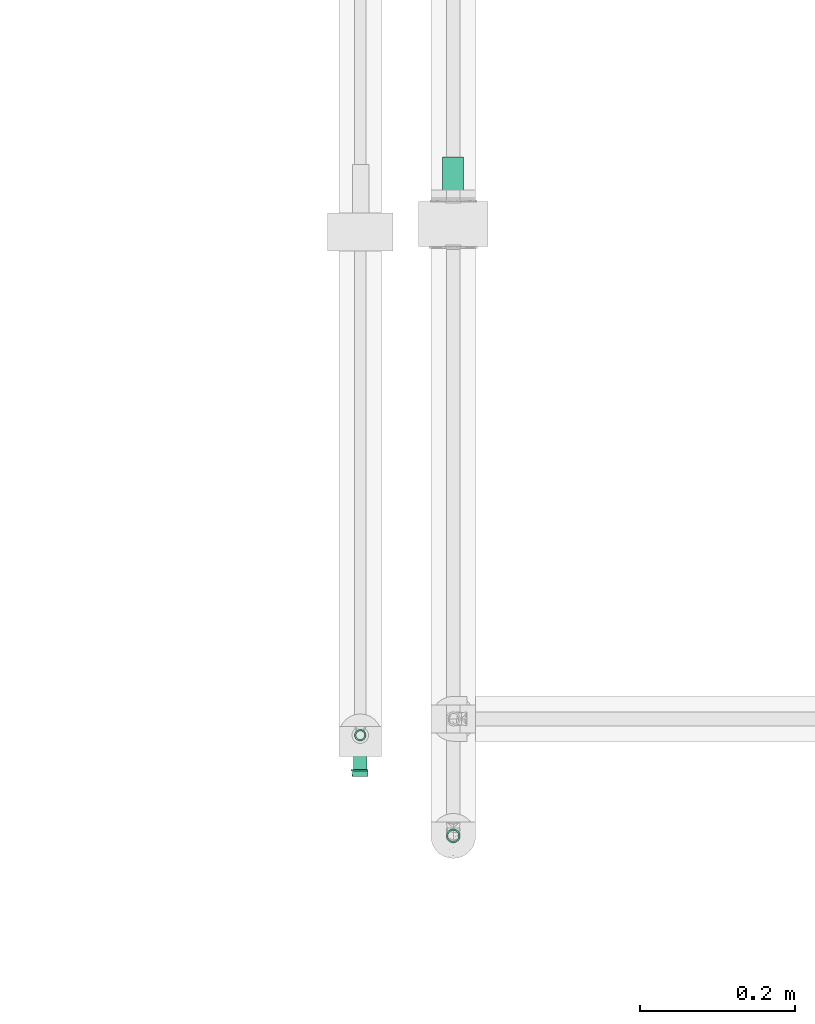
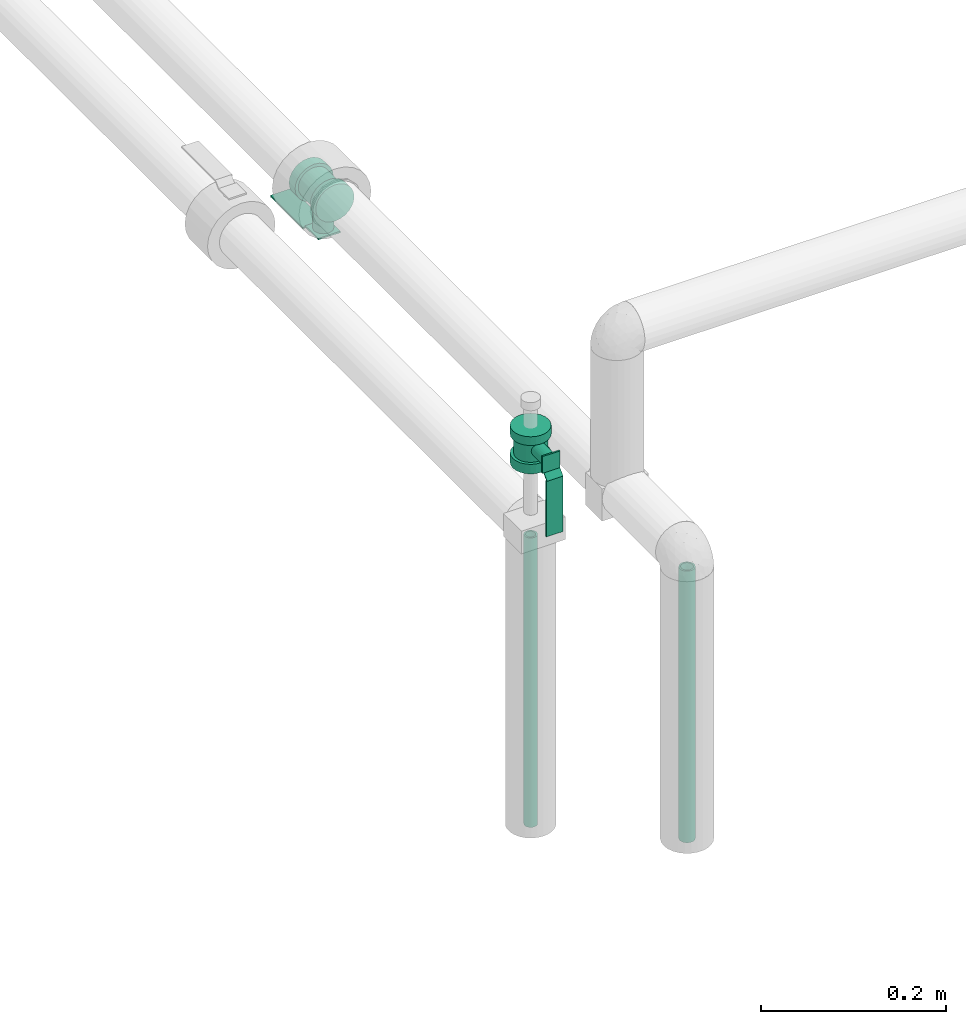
# One storey, part 27 of 78: 2 flow controllers, 2 flow segments.
"""IFC2X3 building model written with IfcOpenShell, lengths in millimetres."""

from ifc_helpers import new_model, entity, si_unit, converted_unit, derived_unit, direction, frame, origin_with_axes, origin_2d_with_axis, place, context, subcontext, project, spatial, hollow_circle, extrude, open_shell, surface_model, source, transform, mapped, type_object, element, save


model = new_model("IFC2X3")

# Units and contexts
model_context = context("Model", 3, precision=0.01, world=frame((0.0, 4.29681676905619e-09, 0.0)), true_north=direction((4.01073788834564e-13, 1.0)))
plan_context = context("Plan", 3, precision=0.01, world=frame((0.0, 4.29681676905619e-09, 0.0)), true_north=direction((4.01073788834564e-13, 1.0)))
body_context = subcontext(model_context, "Body", "Model", "MODEL_VIEW")
ifc_project = project(units=[converted_unit("PLANEANGLEUNIT", "DEGREE", entity("IfcPositiveLengthMeasure", 0.0174532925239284), si_unit("PLANEANGLEUNIT", "RADIAN"), dimensions=[0, 0, 0, 0, 0, 0, 0]), si_unit("AREAUNIT", "SQUARE_METRE"), si_unit("LENGTHUNIT", "METRE", prefix="MILLI"), si_unit("MASSUNIT", "GRAM", prefix="KILO"), si_unit("POWERUNIT", "WATT"), si_unit("PRESSUREUNIT", "PASCAL"), si_unit("FORCEUNIT", "NEWTON", prefix="KILO"), si_unit("ELECTRICVOLTAGEUNIT", "VOLT"), si_unit("ELECTRICCURRENTUNIT", "AMPERE"), si_unit("THERMODYNAMICTEMPERATUREUNIT", "DEGREE_CELSIUS"), si_unit("TIMEUNIT", "SECOND"), si_unit("VOLUMEUNIT", "CUBIC_METRE"), derived_unit("LINEARVELOCITYUNIT", [(si_unit("LENGTHUNIT", "METRE"), 1), (si_unit("TIMEUNIT", "SECOND"), -1)]), derived_unit("VOLUMETRICFLOWRATEUNIT", [(si_unit("VOLUMEUNIT", "CUBIC_METRE"), 1), (si_unit("TIMEUNIT", "SECOND"), -1)]), derived_unit("THERMALTRANSMITTANCEUNIT", [(si_unit("POWERUNIT", "WATT"), 1), (si_unit("THERMODYNAMICTEMPERATUREUNIT", "KELVIN"), -1), (si_unit("AREAUNIT", "SQUARE_METRE"), -1)]), derived_unit("SOUNDPRESSUREUNIT", [(si_unit("PRESSUREUNIT", "PASCAL"), 1)])], contexts=[model_context, plan_context])

# Site, building, storey
site_placement = place(None, frame((0.0, -4.29681676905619e-09, 0.0), z_axis=(0.0, 0.0, 1.0), x_axis=(1.0, 0.0, 0.0)))
site = spatial("IfcSite", under=ifc_project, at=site_placement, Name="ENGM", CompositionType="ELEMENT")
building_placement = place(site_placement, frame((0.0, 4.29681676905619e-09, 0.0), z_axis=(0.0, 0.0, 1.0), x_axis=(1.0, 0.0, 0.0)))
building = spatial("IfcBuilding", under=site, at=building_placement, Name="TH", CompositionType="ELEMENT")
storey_placement = place(building_placement, frame((0.0, 0.0, 205200.0), z_axis=(0.0, 0.0, 1.0), x_axis=(1.0, 0.0, 0.0)))
storey = spatial("IfcBuildingStorey", under=building, at=storey_placement, Name="Nivå D + 1,2 m", CompositionType="ELEMENT", Elevation=205200.0)

# Flow controllers
valve_type_1 = type_object("IfcValveType", Name="AT3600-20", PredefinedType="NOTDEFINED")
shared_shape_1 = source(origin_with_axes(), body_context, "Body", "SurfaceModel", [
    surface_model("IfcShellBasedSurfaceModel", [(-18.552, 13.0, 50.0), (-18.552, -15.0, 50.0), (9.448, -15.0, 50.0), (9.448, 13.0, 50.0), (9.448, 13.0, 48.0), (9.448, -15.0, 48.0), (-18.552, -15.0, 48.0), (-18.552, 13.0, 48.0), (15.8, -19.27022, -5.16344), (-17.0, -19.95, 0.0), (-17.0, -19.27022, -5.16344), (15.8, -17.27721, -9.975), (-17.0, -17.27721, -9.975), (15.8, -9.975, -17.27721), (-17.0, -9.975, -17.27721), (-17.0, -5.16344, -19.27022), (15.8, -5.16344, -19.27022), (-17.0, 0.0, -19.95), (15.8, -19.95, 0.0), (-17.0, -14.10678, -14.10678), (15.8, -14.10678, -14.10678), (15.8, 0.0, -19.95), (15.8, 5.16344, -19.27022), (-17.0, 5.16344, -19.27022), (-17.0, 9.975, -17.27721), (-17.0, 14.10678, -14.10678), (15.8, 9.975, -17.27721), (15.8, 17.27721, -9.975), (-17.0, 17.27721, -9.975), (-17.0, 19.27022, -5.16344), (15.8, 14.10678, -14.10678), (15.8, 19.27022, -5.16344), (-17.0, 19.95, 0.0), (15.8, 19.95, 0.0), (-17.0, 19.27022, 5.16344), (15.8, 19.27022, 5.16344), (-17.0, 17.27721, 9.975), (15.8, 17.27721, 9.975), (-17.0, 14.10678, 14.10678), (15.8, 14.10678, 14.10678), (-17.0, 9.975, 17.27721), (15.8, 9.975, 17.27721), (-17.0, 5.16344, 19.27022), (15.8, 5.16344, 19.27022), (15.8, 0.0, 19.95), (-17.0, 0.0, 19.95), (15.8, -5.16344, 19.27022), (-17.0, -5.16344, 19.27022), (-17.0, -9.975, 17.27721), (-17.0, -14.10678, 14.10678), (15.8, -9.975, 17.27721), (15.8, -17.27721, 9.975), (-17.0, -17.27721, 9.975), (-17.0, -19.27022, 5.16344), (15.8, -14.10678, 14.10678), (15.8, -19.27022, 5.16344), (15.8, -11.97, 20.73265), (15.8, 0.0, 23.94), (15.8, 6.19613, 23.12426), (15.8, 11.97, 20.73265), (15.8, -20.73265, 11.97), (15.8, 20.73265, 11.97), (15.8, 16.92814, 16.92814), (15.8, 23.12426, 6.19613), (15.8, -16.92814, 16.92814), (15.8, -6.19613, 23.12426), (15.8, -23.94, 0.0), (15.8, -23.12426, 6.19613), (15.8, 23.94, 0.0), (15.8, -20.73265, -11.97), (15.8, 23.12426, -6.19613), (15.8, 16.92814, -16.92814), (15.8, 20.73265, -11.97), (15.8, 11.97, -20.73265), (15.8, 6.19613, -23.12426), (15.8, -11.97, -20.73265), (15.8, -16.92814, -16.92814), (15.8, -23.12426, -6.19613), (15.8, 0.0, -23.94), (15.8, -6.19613, -23.12426), (29.0, 6.19613, -23.12426), (29.0, -11.97, -20.73265), (29.0, 0.0, -23.94), (29.0, 16.92814, -16.92814), (29.0, 11.97, -20.73265), (29.0, 20.73265, -11.97), (29.0, 23.12426, -6.19613), (29.0, -20.73265, -11.97), (29.0, -16.92814, -16.92814), (29.0, -6.19613, -23.12426), (29.0, -23.94, 0.0), (29.0, -23.12426, -6.19613), (29.0, 23.94, 0.0), (29.0, 23.12426, 6.19613), (29.0, 20.73265, 11.97), (29.0, 11.97, 20.73265), (29.0, -20.73265, 11.97), (29.0, 16.92814, 16.92814), (29.0, 6.19613, 23.12426), (29.0, -11.97, 20.73265), (29.0, -16.92814, 16.92814), (29.0, -23.12426, 6.19613), (29.0, 0.0, 23.94), (29.0, -6.19613, 23.12426), (-17.0, 11.97, -20.73265), (-17.0, -6.19613, 23.12426), (-17.0, 6.19613, -23.12426), (-17.0, 16.92814, -16.92814), (-17.0, 6.19613, 23.12426), (-17.0, 20.73265, 11.97), (-17.0, 20.73265, -11.97), (-17.0, 23.12426, -6.19613), (-17.0, 0.0, -23.94), (-17.0, -6.19613, -23.12426), (-17.0, -11.97, -20.73265), (-17.0, -20.73265, -11.97), (-17.0, -20.73265, 11.97), (-17.0, -23.12426, -6.19613), (-17.0, -16.92814, 16.92814), (-17.0, -16.92814, -16.92814), (-17.0, 23.94, 0.0), (-17.0, 23.12426, 6.19613), (-17.0, 16.92814, 16.92814), (-17.0, 11.97, 20.73265), (-17.0, 0.0, 23.94), (-17.0, -23.12426, 6.19613), (-17.0, -23.94, 0.0), (-17.0, -11.97, 20.73265), (-29.0, 6.19613, 23.12426), (-29.0, -6.19613, -23.12426), (-29.0, 0.0, 23.94), (-29.0, 16.92814, 16.92814), (-29.0, 16.92814, -16.92814), (-29.0, 11.97, 20.73265), (-29.0, 20.73265, -11.97), (-29.0, 20.73265, 11.97), (-29.0, 23.12426, 6.19613), (-29.0, 11.97, -20.73265), (-29.0, -16.92814, 16.92814), (-29.0, -11.97, 20.73265), (-29.0, -16.92814, -16.92814), (-29.0, -6.19613, 23.12426), (-29.0, -20.73265, 11.97), (-29.0, -23.12426, 6.19613), (-29.0, -20.73265, -11.97), (-29.0, -11.97, -20.73265), (-29.0, 23.94, 0.0), (-29.0, 23.12426, -6.19613), (-29.0, 6.19613, -23.12426), (-29.0, 0.0, -23.94), (-29.0, -23.12426, -6.19613), (-29.0, -23.94, 0.0), (-3.552, -11.48, 48.0), (-0.58076, -11.08883, 48.0), (2.188, -9.94197, 48.0), (-9.292, -9.94197, 48.0), (-14.64083, -2.97124, 48.0), (6.38997, -5.74, 48.0), (4.56559, -8.11759, 48.0), (-11.66959, 8.11759, 48.0), (-11.66959, -8.11759, 48.0), (-6.52324, -11.08883, 48.0), (-13.49397, -5.74, 48.0), (-14.64083, 2.97124, 48.0), (-15.032, 0.0, 48.0), (7.53683, -2.97124, 48.0), (7.53683, 2.97124, 48.0), (4.56559, 8.11759, 48.0), (6.38997, 5.74, 48.0), (2.188, 9.94197, 48.0), (-0.58076, 11.08883, 48.0), (-13.49397, 5.74, 48.0), (-9.292, 9.94197, 48.0), (-3.552, 11.48, 48.0), (-6.52324, 11.08883, 48.0), (7.928, 0.0, 48.0), (-0.58076, 11.08883, 0.0), (2.188, 9.94197, 0.0), (4.56559, 8.11759, 0.0), (7.53683, 2.97124, 0.0), (7.928, 0.0, 0.0), (6.38997, 5.74, 0.0), (-11.66959, 8.11759, 0.0), (-3.552, 11.48, 0.0), (-9.292, 9.94197, 0.0), (-6.52324, 11.08883, 0.0), (-14.64083, 2.97124, 0.0), (-13.49397, 5.74, 0.0), (7.53683, -2.97124, 0.0), (6.38997, -5.74, 0.0), (-15.032, 0.0, 0.0), (2.188, -9.94197, 0.0), (4.56559, -8.11759, 0.0), (-0.58076, -11.08883, 0.0), (-3.552, -11.48, 0.0), (-14.64083, -2.97124, 0.0), (-11.66959, -8.11759, 0.0), (-13.49397, -5.74, 0.0), (-9.292, -9.94197, 0.0), (-6.52324, -11.08883, 0.0), (16.448, -13.0, 55.0), (16.448, -13.0, 57.0), (9.448, -13.0, 50.0), (9.448, -13.0, 48.0), (16.448, 13.0, 55.0), (16.448, 13.0, 57.0), (86.448, -14.0, 57.0), (16.448, -14.0, 57.0), (16.448, -14.0, 55.0), (86.448, -14.0, 55.0), (86.448, 13.0, 55.0), (86.448, 13.0, 57.0)], [open_shell([[[0, 1, 2]], [[2, 3, 0]], [[4, 5, 6]], [[6, 7, 4]], [[2, 1, 6]], [[6, 5, 2]], [[3, 2, 5]], [[5, 4, 3]], [[0, 3, 4]], [[4, 7, 0]], [[1, 0, 7]], [[7, 6, 1]], [[8, 9, 10]], [[11, 10, 12]], [[13, 14, 15]], [[16, 15, 17]], [[10, 11, 8]], [[8, 18, 9]], [[19, 20, 11]], [[20, 19, 13]], [[13, 19, 14]], [[15, 16, 13]], [[19, 11, 12]], [[17, 21, 16]], [[22, 23, 24]], [[25, 26, 24]], [[27, 28, 29]], [[25, 28, 30]], [[31, 29, 32]], [[23, 22, 21]], [[24, 26, 22]], [[25, 30, 26]], [[28, 27, 30]], [[31, 27, 29]], [[32, 33, 31]], [[23, 21, 17]], [[34, 35, 32]], [[36, 37, 34]], [[36, 38, 39]], [[38, 40, 41]], [[34, 37, 35]], [[35, 33, 32]], [[42, 43, 41]], [[44, 43, 42]], [[39, 38, 41]], [[39, 37, 36]], [[40, 42, 41]], [[42, 45, 44]], [[46, 47, 48]], [[49, 50, 48]], [[51, 52, 53]], [[49, 52, 54]], [[55, 53, 9]], [[47, 46, 44]], [[48, 50, 46]], [[49, 54, 50]], [[52, 51, 54]], [[55, 51, 53]], [[9, 18, 55]], [[47, 44, 45]], [[56, 57, 58]], [[59, 56, 58]], [[60, 59, 61]], [[61, 59, 62]], [[60, 61, 63]], [[56, 60, 64]], [[56, 65, 57]], [[60, 66, 67]], [[60, 56, 59]], [[66, 60, 63]], [[63, 68, 66]], [[69, 66, 70]], [[71, 70, 72]], [[71, 73, 74]], [[71, 74, 70]], [[69, 70, 74]], [[69, 75, 76]], [[77, 66, 69]], [[75, 78, 79]], [[75, 69, 74]], [[78, 75, 74]], [[66, 68, 70]], [[80, 81, 82]], [[83, 80, 84]], [[83, 85, 86]], [[81, 80, 83]], [[81, 83, 86]], [[81, 87, 88]], [[81, 89, 82]], [[87, 90, 91]], [[92, 87, 81]], [[92, 90, 87]], [[92, 81, 86]], [[92, 93, 94]], [[92, 94, 95]], [[92, 95, 96]], [[95, 94, 97]], [[96, 95, 98]], [[96, 99, 100]], [[101, 90, 96]], [[99, 102, 103]], [[99, 96, 98]], [[102, 99, 98]], [[96, 90, 92]], [[63, 93, 68]], [[61, 94, 63]], [[95, 62, 59]], [[61, 62, 97]], [[98, 59, 58]], [[63, 94, 93]], [[93, 92, 68]], [[98, 95, 59]], [[97, 62, 95]], [[97, 94, 61]], [[102, 98, 58]], [[58, 57, 102]], [[65, 103, 57]], [[56, 99, 65]], [[96, 64, 60]], [[56, 64, 100]], [[101, 60, 67]], [[56, 100, 99]], [[99, 103, 65]], [[90, 101, 67]], [[96, 60, 101]], [[96, 100, 64]], [[66, 90, 67]], [[57, 103, 102]], [[77, 91, 66]], [[69, 87, 77]], [[81, 76, 75]], [[69, 76, 88]], [[89, 75, 79]], [[77, 87, 91]], [[91, 90, 66]], [[89, 81, 75]], [[88, 76, 81]], [[88, 87, 69]], [[82, 89, 79]], [[79, 78, 82]], [[74, 80, 78]], [[73, 84, 74]], [[85, 71, 72]], [[73, 71, 83]], [[86, 72, 70]], [[73, 83, 84]], [[84, 80, 74]], [[92, 86, 70]], [[85, 72, 86]], [[85, 83, 71]], [[68, 92, 70]], [[78, 80, 82]], [[104, 105, 106]], [[107, 108, 104]], [[109, 110, 111]], [[106, 105, 112]], [[110, 109, 107]], [[112, 105, 113]], [[113, 105, 114]], [[115, 116, 117]], [[118, 119, 114]], [[119, 116, 115]], [[120, 121, 111]], [[109, 122, 107]], [[122, 123, 107]], [[108, 124, 104]], [[107, 123, 108]], [[124, 105, 104]], [[117, 116, 125]], [[126, 117, 125]], [[119, 118, 116]], [[114, 127, 118]], [[114, 105, 127]], [[109, 111, 121]], [[128, 129, 130]], [[131, 132, 133]], [[134, 135, 136]], [[137, 128, 133]], [[134, 131, 135]], [[138, 139, 140]], [[129, 141, 130]], [[138, 140, 142]], [[143, 142, 144]], [[145, 139, 141]], [[136, 146, 147]], [[132, 131, 134]], [[133, 132, 137]], [[128, 148, 149]], [[128, 137, 148]], [[129, 128, 149]], [[143, 144, 150]], [[150, 151, 143]], [[142, 140, 144]], [[145, 140, 139]], [[129, 145, 141]], [[147, 134, 136]], [[150, 117, 151]], [[144, 115, 150]], [[114, 140, 145]], [[144, 140, 119]], [[113, 145, 129]], [[150, 115, 117]], [[117, 126, 151]], [[113, 114, 145]], [[119, 140, 114]], [[119, 115, 144]], [[112, 113, 129]], [[129, 149, 112]], [[148, 106, 149]], [[137, 104, 148]], [[110, 132, 134]], [[137, 132, 107]], [[111, 134, 147]], [[137, 107, 104]], [[104, 106, 148]], [[120, 111, 147]], [[110, 134, 111]], [[110, 107, 132]], [[146, 120, 147]], [[149, 106, 112]], [[136, 121, 146]], [[135, 109, 136]], [[123, 131, 133]], [[135, 131, 122]], [[108, 133, 128]], [[136, 109, 121]], [[121, 120, 146]], [[108, 123, 133]], [[122, 131, 123]], [[122, 109, 135]], [[124, 108, 128]], [[128, 130, 124]], [[141, 105, 130]], [[139, 127, 141]], [[116, 138, 142]], [[139, 138, 118]], [[125, 142, 143]], [[139, 118, 127]], [[127, 105, 141]], [[126, 125, 143]], [[116, 142, 125]], [[116, 118, 138]], [[151, 126, 143]], [[130, 105, 124]], [[26, 21, 22]], [[27, 26, 30]], [[26, 31, 13]], [[31, 26, 27]], [[33, 13, 31]], [[21, 13, 16]], [[21, 26, 13]], [[20, 8, 11]], [[8, 20, 13]], [[33, 8, 13]], [[33, 35, 8]], [[35, 37, 39]], [[35, 39, 41]], [[35, 43, 51]], [[43, 35, 41]], [[46, 43, 44]], [[55, 18, 8]], [[35, 51, 55]], [[51, 50, 54]], [[50, 51, 46]], [[43, 46, 51]], [[55, 8, 35]], [[42, 52, 45]], [[38, 42, 40]], [[38, 36, 34]], [[38, 34, 42]], [[52, 42, 34]], [[48, 52, 49]], [[52, 48, 47]], [[34, 53, 52]], [[52, 47, 45]], [[9, 53, 34]], [[34, 32, 9]], [[29, 14, 32]], [[24, 29, 28]], [[14, 29, 24]], [[24, 28, 25]], [[17, 24, 23]], [[10, 19, 12]], [[19, 10, 14]], [[14, 17, 15]], [[14, 10, 32]], [[24, 17, 14]], [[32, 10, 9]], [[152, 153, 154]], [[155, 152, 154]], [[156, 154, 157]], [[157, 154, 158]], [[157, 159, 156]], [[155, 156, 160]], [[155, 161, 152]], [[160, 156, 162]], [[154, 156, 155]], [[156, 163, 164]], [[157, 165, 166]], [[159, 157, 166]], [[167, 166, 168]], [[167, 169, 170]], [[166, 167, 159]], [[170, 159, 167]], [[163, 159, 171]], [[156, 159, 163]], [[172, 173, 174]], [[172, 159, 170]], [[173, 172, 170]], [[165, 175, 166]], [[176, 177, 178]], [[176, 178, 179]], [[179, 180, 176]], [[179, 178, 181]], [[176, 180, 182]], [[183, 184, 185]], [[183, 176, 184]], [[182, 186, 187]], [[184, 176, 182]], [[180, 186, 182]], [[180, 188, 186]], [[189, 190, 188]], [[191, 189, 192]], [[191, 193, 194]], [[189, 191, 195]], [[194, 195, 191]], [[195, 196, 197]], [[195, 190, 189]], [[195, 198, 196]], [[195, 194, 198]], [[199, 198, 194]], [[188, 190, 186]], [[195, 156, 190]], [[197, 162, 195]], [[155, 196, 198]], [[197, 196, 160]], [[161, 198, 199]], [[195, 162, 156]], [[156, 164, 190]], [[161, 155, 198]], [[160, 196, 155]], [[160, 162, 197]], [[152, 161, 199]], [[199, 194, 152]], [[193, 153, 194]], [[191, 154, 193]], [[157, 192, 189]], [[191, 192, 158]], [[165, 189, 188]], [[191, 158, 154]], [[154, 153, 193]], [[175, 165, 188]], [[157, 189, 165]], [[157, 158, 192]], [[180, 175, 188]], [[194, 153, 152]], [[179, 166, 180]], [[181, 168, 179]], [[169, 178, 177]], [[181, 178, 167]], [[170, 177, 176]], [[179, 168, 166]], [[166, 175, 180]], [[170, 169, 177]], [[167, 178, 169]], [[167, 168, 181]], [[173, 170, 176]], [[176, 183, 173]], [[185, 174, 183]], [[184, 172, 185]], [[171, 182, 187]], [[184, 182, 159]], [[163, 187, 186]], [[184, 159, 172]], [[172, 174, 185]], [[164, 163, 186]], [[171, 187, 163]], [[171, 159, 182]], [[190, 164, 186]], [[183, 174, 173]], [[200, 201, 202]], [[202, 203, 200]], [[4, 3, 204]], [[205, 204, 3]], [[205, 3, 202]], [[202, 201, 205]], [[204, 205, 200]], [[201, 200, 205]], [[4, 204, 200]], [[200, 203, 4]], [[3, 4, 202]], [[203, 202, 4]], [[206, 207, 208]], [[208, 209, 206]], [[210, 204, 205]], [[205, 211, 210]], [[205, 204, 208]], [[208, 207, 205]], [[211, 205, 207]], [[207, 206, 211]], [[210, 211, 206]], [[206, 209, 210]], [[204, 210, 209]], [[209, 208, 204]]])]),
])
flow_controller_1_placement = place(storey_placement, frame((900010.50163, 478913.96045, 4210.0), z_axis=(0.0, 3.999999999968e-06, -0.999999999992), x_axis=(0.0, 0.999999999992, 3.999999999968e-06)))
element("IfcFlowController", 1, at=flow_controller_1_placement, inside=storey, type_object=valve_type_1, Name="AT3600-20", context=body_context, shape_type="MappedRepresentation", body=[
    mapped(shared_shape_1, transform((0.0, 0.0, 0.0), scale=1.0)),
])
valve_type_2 = type_object("IfcValveType", Name="AT3600-15", PredefinedType="NOTDEFINED")
shared_shape_2 = source(origin_with_axes(), body_context, "Body", "SurfaceModel", [
    surface_model("IfcShellBasedSurfaceModel", [(-14.8115, 10.0, 46.0), (-14.8115, -12.0, 46.0), (7.1885, -12.0, 46.0), (7.1885, 10.0, 46.0), (7.1885, 10.0, 44.0), (7.1885, -12.0, 44.0), (-14.8115, -12.0, 44.0), (-14.8115, 10.0, 44.0), (-13.0, -17.91792, -4.80109), (11.85, -17.91792, -4.80109), (-13.0, -18.55, 0.0), (-13.0, -16.06477, -9.275), (11.85, -16.06477, -9.275), (11.85, -9.275, -16.06477), (-13.0, -13.11683, -13.11683), (-13.0, -9.275, -16.06477), (11.85, -13.11683, -13.11683), (11.85, -4.80109, -17.91792), (-13.0, -4.80109, -17.91792), (11.85, -18.55, 0.0), (11.85, 0.0, -18.55), (-13.0, 0.0, -18.55), (11.85, 9.275, -16.06477), (-13.0, 9.275, -16.06477), (-13.0, 13.11683, -13.11683), (11.85, 16.06477, -9.275), (-13.0, 16.06477, -9.275), (-13.0, 17.91792, -4.80109), (11.85, 13.11683, -13.11683), (11.85, 17.91792, -4.80109), (-13.0, 18.55, 0.0), (11.85, 4.80109, -17.91792), (-13.0, 4.80109, -17.91792), (11.85, 18.55, 0.0), (-13.0, 17.91792, 4.80109), (11.85, 17.91792, 4.80109), (-13.0, 16.06477, 9.275), (11.85, 16.06477, 9.275), (11.85, 9.275, 16.06477), (-13.0, 13.11683, 13.11683), (-13.0, 9.275, 16.06477), (11.85, 13.11683, 13.11683), (11.85, 4.80109, 17.91792), (-13.0, 4.80109, 17.91792), (11.85, 0.0, 18.55), (-13.0, 0.0, 18.55), (11.85, -4.80109, 17.91792), (-13.0, -4.80109, 17.91792), (-13.0, -9.275, 16.06477), (-13.0, -13.11683, 13.11683), (11.85, -9.275, 16.06477), (11.85, -16.06477, 9.275), (-13.0, -16.06477, 9.275), (-13.0, -17.91792, 4.80109), (11.85, -13.11683, 13.11683), (11.85, -17.91792, 4.80109), (11.85, 5.76131, 21.50151), (11.85, -11.13, 19.27773), (11.85, 0.0, 22.26), (11.85, 19.27773, 11.13), (11.85, 11.13, 19.27773), (11.85, 15.7402, 15.7402), (11.85, -21.50151, 5.76131), (11.85, 22.26, 0.0), (11.85, -19.27773, 11.13), (11.85, -15.7402, 15.7402), (11.85, -5.76131, 21.50151), (11.85, -22.26, 0.0), (11.85, 21.50151, 5.76131), (11.85, 21.50151, -5.76131), (11.85, -21.50151, -5.76131), (11.85, 15.7402, -15.7402), (11.85, 19.27773, -11.13), (11.85, 11.13, -19.27773), (11.85, 5.76131, -21.50151), (11.85, 0.0, -22.26), (11.85, -15.7402, -15.7402), (11.85, -19.27773, -11.13), (11.85, -11.13, -19.27773), (11.85, -5.76131, -21.50151), (24.5, 15.7402, -15.7402), (24.5, 0.0, -22.26), (24.5, 5.76131, -21.50151), (24.5, 11.13, -19.27773), (24.5, 19.27773, -11.13), (24.5, 21.50151, -5.76131), (24.5, -11.13, -19.27773), (24.5, -21.50151, -5.76131), (24.5, -19.27773, -11.13), (24.5, -15.7402, -15.7402), (24.5, -5.76131, -21.50151), (24.5, -22.26, 0.0), (24.5, -21.50151, 5.76131), (24.5, 22.26, 0.0), (24.5, 21.50151, 5.76131), (24.5, 19.27773, 11.13), (24.5, -11.13, 19.27773), (24.5, 11.13, 19.27773), (24.5, 5.76131, 21.50151), (24.5, 15.7402, 15.7402), (24.5, -19.27773, 11.13), (24.5, -15.7402, 15.7402), (24.5, 0.0, 22.26), (24.5, -5.76131, 21.50151), (-13.0, 11.13, -19.27773), (-13.0, 11.13, 19.27773), (-13.0, 5.76131, -21.50151), (-13.0, 15.7402, -15.7402), (-13.0, 15.7402, 15.7402), (-13.0, 19.27773, 11.13), (-13.0, 19.27773, -11.13), (-13.0, 21.50151, -5.76131), (-13.0, 0.0, -22.26), (-13.0, 0.0, 22.26), (-13.0, -11.13, -19.27773), (-13.0, -5.76131, 21.50151), (-13.0, -15.7402, -15.7402), (-13.0, -5.76131, -21.50151), (-13.0, -19.27773, 11.13), (-13.0, -19.27773, -11.13), (-13.0, -21.50151, -5.76131), (-13.0, 22.26, 0.0), (-13.0, 21.50151, 5.76131), (-13.0, 5.76131, 21.50151), (-13.0, -21.50151, 5.76131), (-13.0, -22.26, 0.0), (-13.0, -11.13, 19.27773), (-13.0, -15.7402, 15.7402), (-24.5, 5.76131, -21.50151), (-24.5, 5.76131, 21.50151), (-24.5, 11.13, 19.27773), (-24.5, -5.76131, -21.50151), (-24.5, 0.0, 22.26), (-24.5, 19.27773, -11.13), (-24.5, 19.27773, 11.13), (-24.5, 21.50151, 5.76131), (-24.5, 15.7402, 15.7402), (-24.5, 15.7402, -15.7402), (-24.5, -11.13, 19.27773), (-24.5, -11.13, -19.27773), (-24.5, -15.7402, 15.7402), (-24.5, -5.76131, 21.50151), (-24.5, -19.27773, -11.13), (-24.5, -19.27773, 11.13), (-24.5, -21.50151, 5.76131), (-24.5, 21.50151, -5.76131), (-24.5, 22.26, 0.0), (-24.5, 11.13, -19.27773), (-24.5, 0.0, -22.26), (-24.5, -21.50151, -5.76131), (-24.5, -22.26, 0.0), (-24.5, -15.7402, -15.7402), (-7.16025, -7.53226, 44.0), (-2.8115, -8.6975, 44.0), (-0.56042, -8.40114, 44.0), (1.53725, -7.53226, 44.0), (4.72075, -4.34875, 44.0), (3.33856, -6.15006, 44.0), (-11.509, 0.0, 44.0), (5.58964, -2.25108, 44.0), (-10.34376, -4.34875, 44.0), (-8.96156, -6.15006, 44.0), (-5.06258, -8.40114, 44.0), (-11.21264, -2.25108, 44.0), (5.886, 0.0, 44.0), (-0.56042, 8.40114, 44.0), (5.58964, 2.25108, 44.0), (3.33856, 6.15006, 44.0), (4.72075, 4.34875, 44.0), (1.53725, 7.53226, 44.0), (-2.8115, 8.6975, 44.0), (-11.21264, 2.25108, 44.0), (-8.96156, 6.15006, 44.0), (-10.34376, 4.34875, 44.0), (-7.16025, 7.53226, 44.0), (-5.06258, 8.40114, 44.0), (1.53725, 7.53226, 0.0), (-2.8115, 8.6975, 0.0), (-0.56042, 8.40114, 0.0), (5.886, 0.0, 0.0), (3.33856, 6.15006, 0.0), (5.58964, 2.25108, 0.0), (4.72075, 4.34875, 0.0), (-11.21264, 2.25108, 0.0), (-5.06258, 8.40114, 0.0), (-7.16025, 7.53226, 0.0), (-8.96156, 6.15006, 0.0), (-10.34376, 4.34875, 0.0), (1.53725, -7.53226, 0.0), (4.72075, -4.34875, 0.0), (3.33856, -6.15006, 0.0), (-11.21264, -2.25108, 0.0), (-0.56042, -8.40114, 0.0), (-2.8115, -8.6975, 0.0), (-7.16025, -7.53226, 0.0), (-10.34376, -4.34875, 0.0), (-11.509, 0.0, 0.0), (-8.96156, -6.15006, 0.0), (-5.06258, -8.40114, 0.0), (5.58964, -2.25108, 0.0), (14.1885, -10.0, 51.0), (14.1885, -10.0, 53.0), (7.1885, -10.0, 46.0), (7.1885, -10.0, 44.0), (14.1885, 10.0, 51.0), (14.1885, 10.0, 53.0), (87.1885, -11.0, 53.0), (14.1885, -11.0, 53.0), (14.1885, -11.0, 51.0), (87.1885, -11.0, 51.0), (87.1885, 10.0, 51.0), (87.1885, 10.0, 53.0)], [open_shell([[[0, 1, 2]], [[2, 3, 0]], [[4, 5, 6]], [[6, 7, 4]], [[3, 2, 5]], [[5, 4, 3]], [[1, 0, 7]], [[7, 6, 1]], [[8, 9, 10]], [[11, 12, 8]], [[13, 14, 15]], [[11, 14, 16]], [[17, 15, 18]], [[8, 12, 9]], [[9, 19, 10]], [[17, 13, 15]], [[16, 14, 13]], [[16, 12, 11]], [[20, 17, 18]], [[18, 21, 20]], [[22, 23, 24]], [[25, 26, 27]], [[24, 26, 28]], [[29, 27, 30]], [[31, 32, 22]], [[31, 20, 32]], [[32, 23, 22]], [[24, 28, 22]], [[26, 25, 28]], [[29, 25, 27]], [[30, 33, 29]], [[32, 20, 21]], [[34, 35, 30]], [[36, 37, 34]], [[38, 39, 40]], [[36, 39, 41]], [[42, 40, 43]], [[34, 37, 35]], [[35, 33, 30]], [[38, 40, 42]], [[41, 39, 38]], [[41, 37, 36]], [[43, 44, 42]], [[43, 45, 44]], [[46, 47, 48]], [[49, 50, 48]], [[51, 52, 53]], [[49, 52, 54]], [[55, 53, 10]], [[47, 46, 45]], [[48, 50, 46]], [[45, 46, 44]], [[49, 54, 50]], [[52, 51, 54]], [[55, 51, 53]], [[10, 19, 55]], [[56, 57, 58]], [[59, 56, 60]], [[56, 59, 57]], [[59, 60, 61]], [[62, 59, 63]], [[57, 64, 65]], [[57, 66, 58]], [[57, 62, 64]], [[57, 59, 62]], [[63, 67, 62]], [[59, 68, 63]], [[69, 70, 63]], [[71, 69, 72]], [[71, 73, 74]], [[70, 69, 71]], [[75, 71, 74]], [[70, 76, 77]], [[76, 70, 78]], [[78, 75, 79]], [[78, 70, 71]], [[71, 75, 78]], [[63, 70, 67]], [[80, 81, 82]], [[80, 82, 83]], [[80, 84, 85]], [[81, 80, 86]], [[87, 80, 85]], [[86, 88, 89]], [[86, 90, 81]], [[86, 87, 88]], [[80, 87, 86]], [[85, 91, 87]], [[85, 92, 91]], [[93, 94, 95]], [[96, 93, 95]], [[97, 98, 95]], [[97, 95, 99]], [[96, 95, 98]], [[100, 96, 101]], [[96, 100, 92]], [[96, 102, 103]], [[92, 85, 96]], [[98, 102, 96]], [[96, 85, 93]], [[68, 94, 63]], [[59, 95, 68]], [[97, 61, 60]], [[59, 61, 99]], [[98, 60, 56]], [[68, 95, 94]], [[94, 93, 63]], [[98, 97, 60]], [[99, 61, 97]], [[99, 95, 59]], [[102, 98, 56]], [[56, 58, 102]], [[66, 103, 58]], [[57, 96, 66]], [[100, 65, 64]], [[57, 65, 101]], [[92, 64, 62]], [[57, 101, 96]], [[96, 103, 66]], [[91, 92, 62]], [[100, 64, 92]], [[100, 101, 65]], [[67, 91, 62]], [[58, 103, 102]], [[70, 87, 67]], [[77, 88, 70]], [[86, 76, 78]], [[77, 76, 89]], [[90, 78, 79]], [[70, 88, 87]], [[87, 91, 67]], [[90, 86, 78]], [[89, 76, 86]], [[89, 88, 77]], [[81, 90, 79]], [[79, 75, 81]], [[74, 82, 75]], [[73, 83, 74]], [[84, 71, 72]], [[73, 71, 80]], [[85, 72, 69]], [[73, 80, 83]], [[83, 82, 74]], [[93, 85, 69]], [[84, 72, 85]], [[84, 80, 71]], [[63, 93, 69]], [[75, 82, 81]], [[104, 105, 106]], [[107, 108, 104]], [[109, 110, 111]], [[110, 108, 107]], [[112, 106, 113]], [[114, 115, 116]], [[113, 117, 112]], [[116, 118, 119]], [[117, 115, 114]], [[118, 120, 119]], [[121, 122, 111]], [[109, 108, 110]], [[105, 104, 108]], [[113, 106, 123]], [[106, 105, 123]], [[115, 117, 113]], [[118, 124, 120]], [[125, 120, 124]], [[116, 126, 127]], [[118, 116, 127]], [[115, 126, 116]], [[111, 122, 109]], [[128, 129, 130]], [[131, 132, 129]], [[133, 134, 135]], [[134, 133, 136]], [[137, 130, 136]], [[138, 139, 140]], [[141, 139, 138]], [[140, 142, 143]], [[144, 143, 142]], [[141, 132, 139]], [[145, 135, 146]], [[137, 136, 133]], [[130, 137, 147]], [[129, 128, 148]], [[130, 147, 128]], [[129, 148, 131]], [[142, 149, 144]], [[150, 144, 149]], [[140, 139, 151]], [[151, 142, 140]], [[131, 139, 132]], [[135, 145, 133]], [[149, 120, 150]], [[142, 119, 149]], [[114, 151, 139]], [[142, 151, 116]], [[117, 139, 131]], [[149, 119, 120]], [[120, 125, 150]], [[117, 114, 139]], [[116, 151, 114]], [[116, 119, 142]], [[112, 117, 131]], [[131, 148, 112]], [[128, 106, 148]], [[147, 104, 128]], [[110, 137, 133]], [[147, 137, 107]], [[111, 133, 145]], [[147, 107, 104]], [[104, 106, 128]], [[121, 111, 145]], [[110, 133, 111]], [[110, 107, 137]], [[146, 121, 145]], [[148, 106, 112]], [[135, 122, 146]], [[134, 109, 135]], [[105, 136, 130]], [[134, 136, 108]], [[123, 130, 129]], [[135, 109, 122]], [[122, 121, 146]], [[123, 105, 130]], [[108, 136, 105]], [[108, 109, 134]], [[113, 123, 129]], [[129, 132, 113]], [[141, 115, 132]], [[138, 126, 141]], [[118, 140, 143]], [[138, 140, 127]], [[124, 143, 144]], [[138, 127, 126]], [[126, 115, 141]], [[125, 124, 144]], [[118, 143, 124]], [[118, 127, 140]], [[150, 125, 144]], [[132, 115, 113]], [[25, 31, 22]], [[25, 22, 28]], [[29, 33, 31]], [[29, 31, 25]], [[9, 31, 19]], [[20, 13, 17]], [[20, 31, 13]], [[16, 9, 12]], [[9, 16, 13]], [[31, 9, 13]], [[31, 33, 19]], [[38, 35, 37]], [[38, 37, 41]], [[38, 42, 44]], [[38, 44, 35]], [[35, 44, 54]], [[55, 54, 51]], [[54, 55, 19]], [[54, 46, 50]], [[54, 19, 35]], [[44, 46, 54]], [[35, 19, 33]], [[45, 43, 40]], [[45, 40, 39]], [[36, 34, 45]], [[36, 45, 39]], [[45, 34, 49]], [[47, 49, 48]], [[47, 45, 49]], [[49, 53, 52]], [[53, 49, 10]], [[34, 10, 49]], [[34, 27, 10]], [[8, 10, 27]], [[24, 27, 26]], [[23, 32, 27]], [[23, 27, 24]], [[8, 27, 32]], [[8, 14, 11]], [[14, 8, 15]], [[15, 21, 18]], [[15, 8, 32]], [[32, 21, 15]], [[27, 34, 30]], [[152, 153, 154]], [[155, 152, 154]], [[152, 155, 156]], [[156, 155, 157]], [[158, 156, 159]], [[152, 160, 161]], [[152, 162, 153]], [[160, 158, 163]], [[158, 160, 152]], [[156, 158, 152]], [[159, 164, 158]], [[165, 164, 166]], [[167, 166, 168]], [[167, 169, 165]], [[167, 165, 166]], [[164, 165, 170]], [[171, 172, 173]], [[172, 171, 174]], [[171, 175, 174]], [[171, 164, 175]], [[164, 170, 175]], [[164, 171, 158]], [[176, 177, 178]], [[179, 176, 180]], [[181, 179, 180]], [[181, 180, 182]], [[183, 176, 179]], [[184, 183, 185]], [[183, 184, 177]], [[186, 183, 187]], [[183, 186, 185]], [[177, 176, 183]], [[179, 188, 183]], [[189, 188, 179]], [[188, 189, 190]], [[191, 188, 192]], [[183, 188, 191]], [[193, 194, 192]], [[191, 194, 195]], [[196, 183, 191]], [[195, 194, 197]], [[191, 192, 194]], [[198, 194, 193]], [[189, 179, 199]], [[191, 163, 196]], [[195, 160, 191]], [[152, 197, 194]], [[195, 197, 161]], [[162, 194, 198]], [[191, 160, 163]], [[163, 158, 196]], [[162, 152, 194]], [[161, 197, 152]], [[161, 160, 195]], [[153, 162, 198]], [[198, 193, 153]], [[192, 154, 193]], [[188, 155, 192]], [[156, 190, 189]], [[188, 190, 157]], [[159, 189, 199]], [[188, 157, 155]], [[155, 154, 192]], [[164, 159, 199]], [[156, 189, 159]], [[156, 157, 190]], [[179, 164, 199]], [[193, 154, 153]], [[181, 166, 179]], [[182, 168, 181]], [[169, 180, 176]], [[182, 180, 167]], [[165, 176, 178]], [[181, 168, 166]], [[166, 164, 179]], [[165, 169, 176]], [[167, 180, 169]], [[167, 168, 182]], [[170, 165, 178]], [[178, 177, 170]], [[184, 175, 177]], [[185, 174, 184]], [[173, 186, 187]], [[185, 186, 172]], [[171, 187, 183]], [[185, 172, 174]], [[174, 175, 184]], [[158, 171, 183]], [[173, 187, 171]], [[173, 172, 186]], [[196, 158, 183]], [[177, 175, 170]], [[2, 1, 5]], [[6, 5, 1]], [[0, 3, 7]], [[4, 7, 3]], [[200, 201, 202]], [[202, 203, 200]], [[4, 3, 204]], [[205, 204, 3]], [[205, 3, 201]], [[202, 201, 3]], [[204, 205, 200]], [[201, 200, 205]], [[4, 204, 203]], [[200, 203, 204]], [[3, 4, 202]], [[203, 202, 4]], [[206, 207, 208]], [[208, 209, 206]], [[210, 204, 205]], [[205, 211, 210]], [[205, 204, 207]], [[208, 207, 204]], [[211, 205, 207]], [[207, 206, 211]], [[210, 211, 209]], [[206, 209, 211]], [[204, 210, 209]], [[209, 208, 204]]])]),
])
flow_controller_2_placement = place(storey_placement, frame((899890.50163, 478254.37338, 4317.09280000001), z_axis=(0.0, -1.0, 0.0), x_axis=(0.0, 0.0, -1.0)))
element("IfcFlowController", 2, at=flow_controller_2_placement, inside=storey, type_object=valve_type_2, Name="AT3600-15", context=body_context, shape_type="MappedRepresentation", body=[
    mapped(shared_shape_2, transform((0.0, 0.0, 0.0), scale=1.0)),
])

# Flow segments
pipe_segment_type = type_object("IfcPipeSegmentType", Name="Kobberrør", PredefinedType="RIGIDSEGMENT")
shared_shape_3 = source(origin_with_axes(), body_context, "Body", "SweptSolid", [
    extrude(hollow_circle(Radius=7.5, WallThickness=2.0, at=origin_2d_with_axis()), frame((0.0, 0.0, 0.0), z_axis=(1.0, 0.0, 0.0), x_axis=(0.0, 1.0, 0.0)), (0.0, 0.0, 1.0), 381.7),
])
flow_segment_1_placement = place(storey_placement, frame((899890.50163, 478254.37338, 4197.79203000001), z_axis=(-1.0, 0.0, 0.0), x_axis=(0.0, 3.999999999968e-06, -0.999999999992)))
element("IfcFlowSegment", 3, at=flow_segment_1_placement, inside=storey, type_object=pipe_segment_type, Name="Kobberrør", context=body_context, shape_type="MappedRepresentation", body=[
    mapped(shared_shape_3, transform((0.0, 0.0, 0.0), scale=1.0)),
])
shared_shape_4 = source(origin_with_axes(), body_context, "Body", "SweptSolid", [
    extrude(hollow_circle(Radius=9.0, WallThickness=2.0, at=origin_2d_with_axis()), frame((0.0, 0.0, 0.0), z_axis=(1.0, 0.0, 0.0), x_axis=(0.0, 1.0, 0.0)), (0.0, 0.0, 1.0), 358.3),
])
flow_segment_2_placement = place(storey_placement, frame((900010.50163, 478124.37013, 3833.67963999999), z_axis=(0.0, 1.0, 0.0), x_axis=(0.0, 0.0, 1.0)))
element("IfcFlowSegment", 4, at=flow_segment_2_placement, inside=storey, type_object=pipe_segment_type, Name="Kobberrør", context=body_context, shape_type="MappedRepresentation", body=[
    mapped(shared_shape_4, transform((0.0, 0.0, 0.0), scale=1.0)),
])

save(model, "model.ifc")
